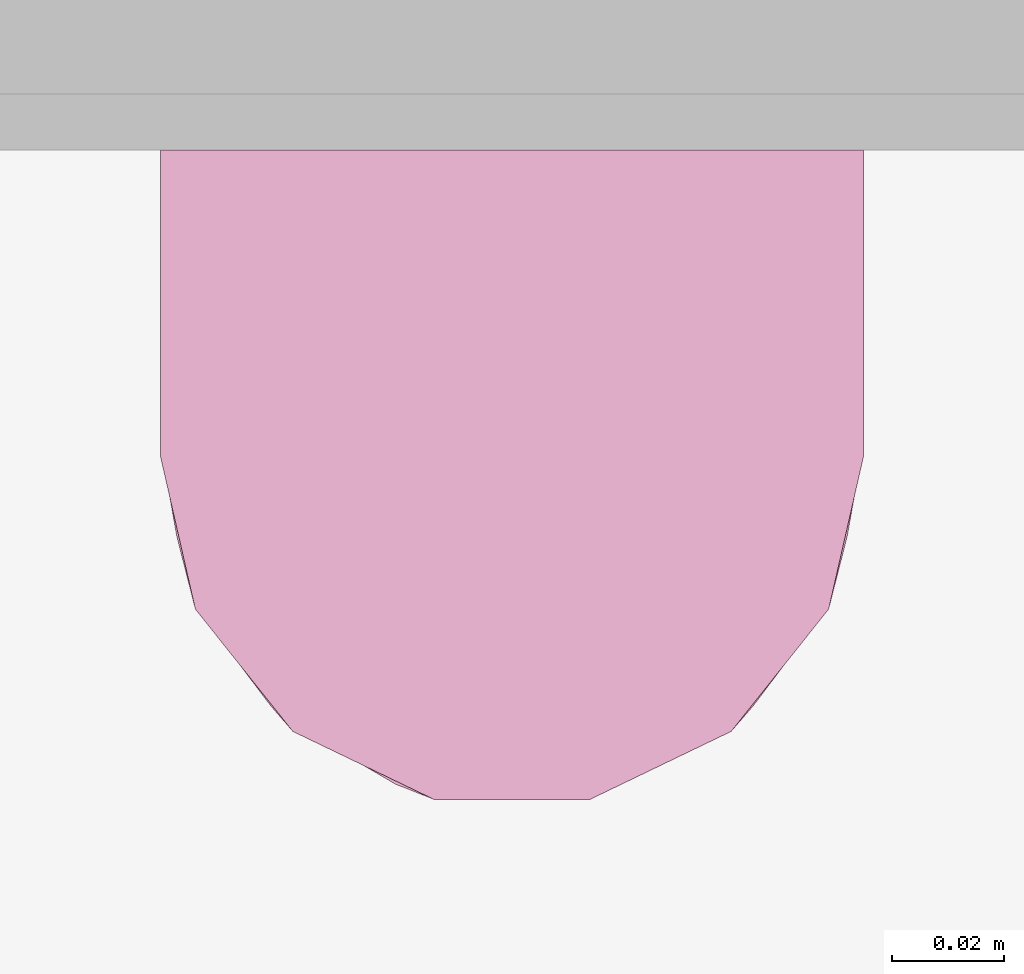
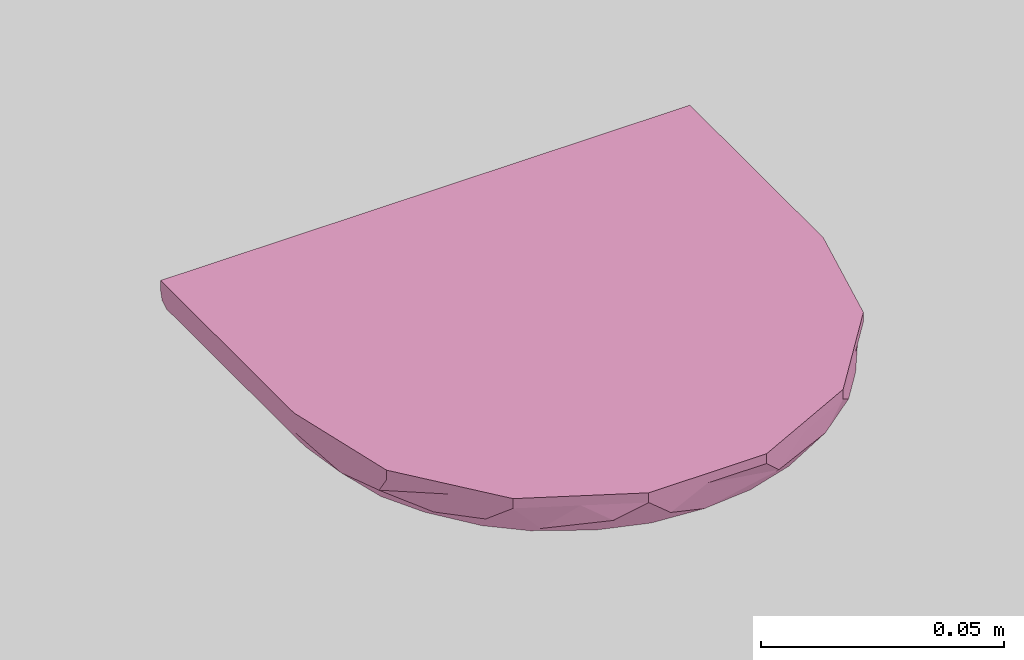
# One storey, part 45 of 47: 1 furniture element.
"""IFC4 building model written with IfcOpenShell, lengths in metres."""

from ifc_helpers import new_model, entity, si_unit, converted_unit, derived_unit, direction, frame, origin, place, context, subcontext, project, spatial, polygons, source, transform, mapped, material, type_object, type_shapes, element, save


model = new_model("IFC4")

# Units and contexts
model_context = context("Model", 3, precision=1e-05, world=origin(), true_north=direction((6.123031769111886e-17, 1.0)))
body_context = subcontext(model_context, "Body", "Model", "MODEL_VIEW")
ifc_project = project(units=[si_unit("LENGTHUNIT", "METRE"), si_unit("AREAUNIT", "SQUARE_METRE"), si_unit("VOLUMEUNIT", "CUBIC_METRE"), converted_unit("PLANEANGLEUNIT", "DEGREE", entity("IfcRatioMeasure", 0.017453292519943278), si_unit("PLANEANGLEUNIT", "RADIAN"), dimensions=[0, 0, 0, 0, 0, 0, 0]), si_unit("MASSUNIT", "GRAM", prefix="KILO"), derived_unit("MASSDENSITYUNIT", [(si_unit("MASSUNIT", "GRAM", prefix="KILO"), 1), (si_unit("LENGTHUNIT", "METRE"), -3)]), derived_unit("IONCONCENTRATIONUNIT", [(si_unit("MASSUNIT", "GRAM", prefix="KILO"), 1), (si_unit("LENGTHUNIT", "METRE"), -3)]), derived_unit("MOMENTOFINERTIAUNIT", [(si_unit("LENGTHUNIT", "METRE"), 4)]), si_unit("TIMEUNIT", "SECOND"), si_unit("FREQUENCYUNIT", "HERTZ"), si_unit("THERMODYNAMICTEMPERATUREUNIT", "DEGREE_CELSIUS"), derived_unit("THERMALTRANSMITTANCEUNIT", [(si_unit("MASSUNIT", "GRAM", prefix="KILO"), 1), (si_unit("THERMODYNAMICTEMPERATUREUNIT", "KELVIN"), -1), (si_unit("TIMEUNIT", "SECOND"), -3)]), derived_unit("THERMALCONDUCTANCEUNIT", [(si_unit("MASSUNIT", "GRAM", prefix="KILO"), 1), (si_unit("THERMODYNAMICTEMPERATUREUNIT", "KELVIN"), -1), (si_unit("TIMEUNIT", "SECOND"), -3), (si_unit("LENGTHUNIT", "METRE"), 1)]), derived_unit("VOLUMETRICFLOWRATEUNIT", [(si_unit("LENGTHUNIT", "METRE"), 3), (si_unit("TIMEUNIT", "SECOND"), -1)]), derived_unit("MASSFLOWRATEUNIT", [(si_unit("MASSUNIT", "GRAM", prefix="KILO"), 1), (si_unit("TIMEUNIT", "SECOND"), -1)]), derived_unit("ROTATIONALFREQUENCYUNIT", [(si_unit("TIMEUNIT", "SECOND"), -1)]), si_unit("ELECTRICCURRENTUNIT", "AMPERE"), si_unit("ELECTRICVOLTAGEUNIT", "VOLT"), si_unit("POWERUNIT", "WATT"), si_unit("FORCEUNIT", "NEWTON", prefix="KILO"), si_unit("ILLUMINANCEUNIT", "LUX"), si_unit("LUMINOUSFLUXUNIT", "LUMEN"), si_unit("LUMINOUSINTENSITYUNIT", "CANDELA"), derived_unit("USERDEFINED", [(si_unit("MASSUNIT", "GRAM", prefix="KILO"), -1), (si_unit("LENGTHUNIT", "METRE"), -2), (si_unit("TIMEUNIT", "SECOND"), 3), (si_unit("LUMINOUSFLUXUNIT", "LUMEN"), 1)]), derived_unit("USERDEFINED", [(si_unit("MASSUNIT", "GRAM", prefix="KILO"), 1), (si_unit("TIMEUNIT", "SECOND"), -3), (si_unit("LENGTHUNIT", "METRE"), 3), (si_unit("ELECTRICCURRENTUNIT", "AMPERE"), -2)]), derived_unit("SOUNDPOWERUNIT", [(si_unit("MASSUNIT", "GRAM", prefix="KILO"), 1), (si_unit("TIMEUNIT", "SECOND"), -3), (si_unit("LENGTHUNIT", "METRE"), 2)]), derived_unit("SOUNDPRESSUREUNIT", [(si_unit("MASSUNIT", "GRAM", prefix="KILO"), 1), (si_unit("LENGTHUNIT", "METRE"), -1), (si_unit("TIMEUNIT", "SECOND"), -2)]), derived_unit("LINEARVELOCITYUNIT", [(si_unit("LENGTHUNIT", "METRE"), 1), (si_unit("TIMEUNIT", "SECOND"), -1)]), si_unit("PRESSUREUNIT", "PASCAL"), derived_unit("USERDEFINED", [(si_unit("MASSUNIT", "GRAM", prefix="KILO"), 1), (si_unit("LENGTHUNIT", "METRE"), -2), (si_unit("TIMEUNIT", "SECOND"), -2)]), derived_unit("LINEARFORCEUNIT", [(si_unit("MASSUNIT", "GRAM", prefix="KILO"), 1), (si_unit("TIMEUNIT", "SECOND"), -2)]), derived_unit("PLANARFORCEUNIT", [(si_unit("MASSUNIT", "GRAM", prefix="KILO"), 1), (si_unit("LENGTHUNIT", "METRE"), -1), (si_unit("TIMEUNIT", "SECOND"), -2)]), derived_unit("SPECIFICHEATCAPACITYUNIT", [(si_unit("THERMODYNAMICTEMPERATUREUNIT", "KELVIN"), -1), (si_unit("LENGTHUNIT", "METRE"), 2), (si_unit("TIMEUNIT", "SECOND"), -2)]), derived_unit("HEATINGVALUEUNIT", [(si_unit("LENGTHUNIT", "METRE"), 2), (si_unit("TIMEUNIT", "SECOND"), -2)]), derived_unit("VAPORPERMEABILITYUNIT", [(si_unit("LENGTHUNIT", "METRE"), -1), (si_unit("TIMEUNIT", "SECOND"), 1)]), derived_unit("DYNAMICVISCOSITYUNIT", [(si_unit("MASSUNIT", "GRAM", prefix="KILO"), 1), (si_unit("TIMEUNIT", "SECOND"), -1), (si_unit("LENGTHUNIT", "METRE"), -1)]), derived_unit("THERMALEXPANSIONCOEFFICIENTUNIT", [(si_unit("THERMODYNAMICTEMPERATUREUNIT", "KELVIN"), -1)]), derived_unit("MODULUSOFELASTICITYUNIT", [(si_unit("MASSUNIT", "GRAM", prefix="KILO"), 1), (si_unit("LENGTHUNIT", "METRE"), -1), (si_unit("TIMEUNIT", "SECOND"), -2)]), derived_unit("ISOTHERMALMOISTURECAPACITYUNIT", [(si_unit("LENGTHUNIT", "METRE"), 3), (si_unit("MASSUNIT", "GRAM", prefix="KILO"), -1)]), derived_unit("MOISTUREDIFFUSIVITYUNIT", [(si_unit("TIMEUNIT", "SECOND"), -1), (si_unit("LENGTHUNIT", "METRE"), 2)])], contexts=[model_context])

# Site, building, storey, space
site_placement = place(None, origin())
site = spatial("IfcSite", under=ifc_project, at=site_placement, Name="Default", CompositionType="ELEMENT")
building_placement = place(site_placement, origin())
building = spatial("IfcBuilding", under=site, at=building_placement, CompositionType="ELEMENT")
storey_placement = place(building_placement, frame((0.0, 0.0, 11.750000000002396)))
storey = spatial("IfcBuildingStorey", under=building, at=storey_placement, Name="Nivel 6", CompositionType="ELEMENT", Elevation=11.750000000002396)
space_placement = place(storey_placement, origin())
space = spatial("IfcSpace", under=storey, at=space_placement, Name="326", CompositionType="ELEMENT", PredefinedType="SPACE")

# Furniture
ifc_material = material(Name="CERAMICA APARATOS", Category="Materials")
furniture_type = type_object("IfcFurnitureType", Name="E2050 - Jabonera:E2050 - Jabonera - Ceramica", AssemblyPlace="NOTDEFINED", PredefinedType="NOTDEFINED", material=ifc_material)
shared_shape = source(origin(), body_context, "Body", "Tessellation", [
    polygons([(-0.05252423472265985, -0.012920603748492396, -3.98642579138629e-15), (-0.05523556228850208, -0.012563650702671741, -3.97690233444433e-15), (-0.05776211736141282, -0.011517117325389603, -3.958155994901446e-15), (-0.059931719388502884, -0.00985232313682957, -3.931464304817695e-15), (-0.06159651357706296, -0.007682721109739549, -3.898646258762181e-15), (-0.06264304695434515, -0.005156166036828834, -3.8619383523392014e-15), (-0.0630000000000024, -0.002444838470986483, -3.823842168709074e-15), (-0.0630000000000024, -8.82367512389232e-15, -3.79003495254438e-15), (0.06300000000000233, -8.823675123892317e-15, -4.003224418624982e-15), (0.06300000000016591, -0.002444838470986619, -4.037031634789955e-15), (0.06264304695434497, -0.0051561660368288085, -4.073919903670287e-15), (0.06159651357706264, -0.007682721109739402, -4.107086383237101e-15), (0.059931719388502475, -0.009852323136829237, -4.134270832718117e-15), (0.05776211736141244, -0.011517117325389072, -4.153620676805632e-15), (0.055235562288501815, -0.012563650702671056, -4.163817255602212e-15), (0.05252423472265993, -0.012920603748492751, -4.164165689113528e-15), (0.04300000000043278, -0.01292060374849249, -4.1480508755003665e-15), (0.042779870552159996, -0.01459265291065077, -4.170799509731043e-15), (0.04213448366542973, -0.01615075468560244, -4.191252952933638e-15), (0.041107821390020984, -0.01748872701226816, -4.20801733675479e-15), (0.03976984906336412, -0.018515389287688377, -4.219950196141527e-15), (0.03821174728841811, -0.019160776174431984, -4.226238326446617e-15), (0.03653969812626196, -0.019380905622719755, -4.226453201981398e-15), (-0.03653969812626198, -0.019380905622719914, -4.1028043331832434e-15), (-0.03821174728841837, -0.019160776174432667, -4.096931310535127e-15), (-0.03976984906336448, -0.018515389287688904, -4.08537062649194e-15), (-0.04110782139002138, -0.017488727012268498, -4.068910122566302e-15), (-0.042134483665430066, -0.01615075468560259, -4.0486715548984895e-15), (-0.04277987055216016, -0.014592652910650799, -4.026034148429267e-15), (-0.04300000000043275, -0.012920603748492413, -4.002540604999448e-15), (-0.05252423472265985, -0.012920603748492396, 0.05500000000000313), (-0.05523556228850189, -0.012563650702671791, 0.05500000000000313), (-0.05776211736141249, -0.011517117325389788, 0.05500000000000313), (-0.0599317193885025, -0.009852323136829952, 0.05500000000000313), (-0.06159651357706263, -0.007682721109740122, 0.05500000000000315), (-0.06264304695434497, -0.005156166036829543, 0.05500000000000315), (-0.06300000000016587, -0.0024448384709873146, 0.055000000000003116), (-0.0630000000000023, -9.584537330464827e-15, 0.05500000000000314), (-0.05676103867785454, -9.98278301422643e-15, 0.08233467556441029), (-0.03927985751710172, -1.0341963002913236e-14, 0.10425538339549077), (-0.014018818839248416, -1.0591040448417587e-14, 0.11642045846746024), (0.014018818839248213, -1.0680682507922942e-14, 0.11642045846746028), (0.03927985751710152, -1.0593134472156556e-14, 0.1042553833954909), (0.05676103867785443, -1.0345736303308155e-14, 0.08233467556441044), (0.06300000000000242, -9.987488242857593e-15, 0.055000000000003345), (-0.036539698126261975, -0.019380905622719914, 0.055000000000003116), (-0.03821174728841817, -0.019160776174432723, 0.055000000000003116), (-0.03976984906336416, -0.018515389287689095, 0.055000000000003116), (-0.04110782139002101, -0.017488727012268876, 0.055000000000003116), (-0.04213448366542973, -0.016150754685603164, 0.055000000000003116), (-0.042779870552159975, -0.014592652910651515, 0.055000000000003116), (-0.04300000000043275, -0.012920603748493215, 0.05500000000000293), (-0.03723909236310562, -0.012920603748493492, 0.07650000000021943), (-0.021500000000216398, -0.012920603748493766, 0.09223909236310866), (-7.613909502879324e-17, -0.012920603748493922, 0.09800000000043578), (0.021500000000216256, -0.012920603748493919, 0.09223909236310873), (0.03723909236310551, -0.012920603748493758, 0.07650000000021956), (0.04300000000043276, -0.012920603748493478, 0.05500000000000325), (0.05252423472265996, -0.012920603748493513, 0.05500000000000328), (0.04732270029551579, -0.012920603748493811, 0.0777894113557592), (0.03274832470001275, -0.012920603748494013, 0.09606510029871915), (0.011687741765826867, -0.012920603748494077, 0.106207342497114), (-0.011687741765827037, -0.012920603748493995, 0.10620734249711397), (-0.0327483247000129, -0.012920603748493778, 0.09606510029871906), (-0.0473227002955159, -0.012920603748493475, 0.07778941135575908), (0.05523556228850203, -0.012563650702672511, 0.05500000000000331), (0.05776211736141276, -0.011517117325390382, 0.05500000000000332), (0.059931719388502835, -0.009852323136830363, 0.055000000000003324), (0.06159651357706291, -0.007682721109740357, 0.05500000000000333), (0.06264304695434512, -0.005156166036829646, 0.055000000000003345), (0.06300000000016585, -0.002444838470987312, 0.055000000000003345), (0.05676103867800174, -0.002444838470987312, 0.08233467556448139), (0.039279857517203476, -0.002444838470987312, 0.10425538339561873), (0.014018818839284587, -0.002444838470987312, 0.11642045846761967), (-0.01401881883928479, -0.002444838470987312, 0.11642045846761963), (-0.03927985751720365, -0.002444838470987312, 0.10425538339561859), (-0.056761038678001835, -0.002444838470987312, 0.08233467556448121), (-0.05541537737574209, -0.00994065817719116, 0.0775884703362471), (0.05541537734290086, -0.009940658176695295, 0.07758847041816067), (-0.06068843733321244, -0.002444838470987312, 0.06512761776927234), (0.06068843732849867, -0.002444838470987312, 0.06512761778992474), (-0.06009482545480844, -0.0073735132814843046, 0.06927989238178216), (0.06009482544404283, -0.007373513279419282, 0.06927989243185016), (1.1920939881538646e-10, -0.009647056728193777, 0.11513144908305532), (-0.02296028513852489, -0.010016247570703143, 0.11017763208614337), (0.022960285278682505, -0.010016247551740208, 0.11017763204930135), (-0.0423486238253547, -0.010229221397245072, 0.09684448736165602), (0.04234862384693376, -0.010229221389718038, 0.09684448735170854), (-0.049923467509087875, -0.012920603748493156, 0.06639470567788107), (0.04992346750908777, -0.012920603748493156, 0.06639470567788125), (-0.05703578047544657, -0.0065083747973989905, 0.07976375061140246), (-0.048020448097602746, -0.002444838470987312, 0.0932950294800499), (-0.05024267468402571, -0.007894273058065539, 0.09041697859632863), (-0.04930529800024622, -0.01152280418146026, 0.08507175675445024), (-0.04320181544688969, -0.006488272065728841, 0.09973226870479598), (-0.026649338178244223, -0.002444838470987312, 0.11033792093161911), (-0.033651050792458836, -0.008354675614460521, 0.10608663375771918), (-0.033585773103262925, -0.011709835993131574, 0.10156463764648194), (-0.04003551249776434, -0.012920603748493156, 0.08692725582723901), (-0.020861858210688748, -0.0061859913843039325, 0.11371301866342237), (-0.008798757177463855, -0.006760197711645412, 0.11644307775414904), (-1.0151879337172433e-16, -0.002444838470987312, 0.11642045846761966), (-0.011582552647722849, -0.010395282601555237, 0.1132044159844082), (-8.671396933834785e-17, -0.012920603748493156, 0.10620734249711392), (0.005858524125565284, -0.012067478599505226, 0.1113613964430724), (0.011714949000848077, -0.009815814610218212, 0.11381264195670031), (0.01809843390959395, -0.006648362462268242, 0.11442472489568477), (0.02664933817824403, -0.002444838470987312, 0.11033792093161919), (0.033532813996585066, -0.007293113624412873, 0.10692394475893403), (0.03311804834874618, -0.010897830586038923, 0.10347984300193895), (0.05703578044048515, -0.006508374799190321, 0.07976375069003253), (0.0480204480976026, -0.002444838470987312, 0.09329502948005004), (0.050242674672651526, -0.007894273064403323, 0.09041697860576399), (0.04930529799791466, -0.01152280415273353, 0.08507175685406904), (0.043201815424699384, -0.006488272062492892, 0.09973226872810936), (-0.022218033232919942, -0.012920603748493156, 0.10113622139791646), (0.02221803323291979, -0.012920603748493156, 0.10113622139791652), (0.04003551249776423, -0.012920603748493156, 0.08692725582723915), (-0.05917785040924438, -0.002444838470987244, 0.07174593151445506), (-0.059880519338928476, -9.58464048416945e-15, 0.06866733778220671), (-0.04802044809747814, -9.584640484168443e-15, 0.09329502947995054), (-0.02664933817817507, -9.584640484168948e-15, 0.11033792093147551), (-1.0151879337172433e-16, -9.584640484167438e-15, 0.11642045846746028), (0.026649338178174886, -9.584640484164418e-15, 0.1103379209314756), (0.048020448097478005, -9.584640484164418e-15, 0.09329502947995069), (0.05917785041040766, -9.584640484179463e-15, 0.07174593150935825), (0.05988051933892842, -0.002444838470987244, 0.06866733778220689), (-0.03529463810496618, -0.019380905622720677, 0.0644571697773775), (-0.031644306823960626, -0.019380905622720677, 0.07326984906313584), (-0.025837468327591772, -0.019380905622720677, 0.08083746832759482), (-0.018269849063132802, -0.019380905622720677, 0.08664430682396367), (-0.009457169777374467, -0.019380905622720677, 0.09029463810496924), (-6.388409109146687e-17, -0.019380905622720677, 0.09153969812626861), (0.00945716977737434, -0.019380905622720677, 0.09029463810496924), (0.018269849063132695, -0.019380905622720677, 0.08664430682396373), (0.025837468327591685, -0.019380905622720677, 0.08083746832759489), (0.03164430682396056, -0.019380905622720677, 0.07326984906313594), (0.035294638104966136, -0.019380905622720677, 0.06445716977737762), (0.03653969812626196, -0.019380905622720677, 0.05500000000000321), (0.03821174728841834, -0.01916077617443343, 0.05500000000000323), (0.03976984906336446, -0.01851538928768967, 0.055000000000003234), (0.041107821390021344, -0.01748872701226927, 0.05500000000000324), (0.04213448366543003, -0.01615075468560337, 0.05500000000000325), (0.04277987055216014, -0.014592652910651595, 0.05500000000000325), (-0.039354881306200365, -0.01681536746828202, 0.06876876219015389), (0.039354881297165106, -0.016815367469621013, 0.0687687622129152), (-0.03969397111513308, -0.012920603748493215, 0.06733826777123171), (0.039693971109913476, -0.012920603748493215, 0.06733826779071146), (-0.029990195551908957, -0.017045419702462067, 0.0837021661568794), (0.02999019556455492, -0.017045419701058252, 0.08370216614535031), (-0.014068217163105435, -0.017293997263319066, 0.09382432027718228), (0.0140682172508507, -0.01729399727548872, 0.0938243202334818), (-0.0414288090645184, -0.016256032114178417, 0.06233060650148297), (0.04142880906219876, -0.016256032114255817, 0.06233060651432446), (-0.03509474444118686, -0.018469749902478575, 0.07387308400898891), (0.03509474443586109, -0.018469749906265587, 0.07387308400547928), (-0.022452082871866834, -0.018468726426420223, 0.08792225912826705), (-0.004758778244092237, -0.018468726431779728, 0.09456419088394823), (0.022452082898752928, -0.018468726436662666, 0.08792225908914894), (-0.010750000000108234, -0.012920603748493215, 0.09511954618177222), (-0.01649269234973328, -0.014958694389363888, 0.09435387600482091), (-0.02403627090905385, -0.015817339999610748, 0.08982450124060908), (-0.029369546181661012, -0.012920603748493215, 0.08436954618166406), (-0.005391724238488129, -0.015874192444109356, 0.09694013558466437), (0.003951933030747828, -0.017201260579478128, 0.09618908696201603), (-0.029447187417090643, -0.018870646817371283, 0.08065629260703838), (0.029447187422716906, -0.018870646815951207, 0.08065629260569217), (0.004753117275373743, -0.01891047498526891, 0.09366878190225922), (0.01247662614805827, -0.01887114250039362, 0.09200843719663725), (-0.013974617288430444, -0.018938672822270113, 0.09129118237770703), (0.021812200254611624, -0.016118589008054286, 0.09107073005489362), (-0.035603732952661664, -0.016145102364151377, 0.07753804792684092), (0.03560373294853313, -0.01614510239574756, 0.07753804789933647), (-0.0379779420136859, -0.01877351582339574, 0.06500795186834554), (0.03797794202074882, -0.018773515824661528, 0.06500795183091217), (0.029369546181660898, -0.012920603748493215, 0.08436954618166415), (0.010750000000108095, -0.012920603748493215, 0.09511954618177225)], [[[8, 9, 10, 11, 12, 13, 14, 15, 16, 17, 18, 19, 20, 21, 22, 23, 24, 25, 26, 27, 28, 29, 30, 1, 2, 3, 4, 5, 6, 7]], [[1, 31, 32, 2]], [[24, 46, 47, 25]], [[2, 32, 33, 3]], [[25, 47, 48, 26]], [[3, 33, 34, 4]], [[26, 48, 49, 27]], [[5, 35, 36, 6]], [[50, 51, 29, 28]], [[6, 36, 37, 7]], [[51, 52, 30, 29]], [[4, 34, 35, 5]], [[27, 49, 50, 28]], [[8, 7, 37, 38]], [[8, 38, 120, 39, 121, 40, 122, 41, 123, 42, 124, 43, 125, 44, 126, 45, 9]], [[17, 16, 59, 90, 60, 118, 61, 117, 62, 104, 63, 116, 64, 99, 65, 89, 31, 1, 30, 52, 147, 53, 163, 54, 160, 55, 177, 56, 176, 57, 148, 58]], [[133, 132, 131, 130, 129, 128, 46, 24, 23, 139, 138, 137, 136, 135, 134]], [[78, 33, 32]], [[90, 66, 79]], [[94, 87, 93]], [[65, 94, 89]], [[80, 37, 36]], [[36, 82, 80]], [[94, 99, 87]], [[70, 71, 81]], [[109, 107, 86]], [[116, 98, 64]], [[82, 36, 35]], [[93, 95, 92]], [[78, 94, 93]], [[34, 33, 82]], [[91, 92, 77]], [[97, 95, 87]], [[34, 82, 35]], [[33, 78, 82]], [[91, 82, 78]], [[82, 77, 119, 80]], [[77, 82, 91]], [[113, 115, 88]], [[63, 104, 103]], [[95, 93, 87]], [[105, 86, 106]], [[93, 91, 78]], [[98, 85, 97]], [[61, 118, 110]], [[66, 67, 79]], [[110, 88, 109]], [[76, 95, 97]], [[114, 90, 79]], [[105, 106, 84]], [[83, 67, 68]], [[32, 89, 78]], [[74, 107, 108]], [[111, 113, 79]], [[90, 59, 66]], [[79, 83, 111]], [[101, 75, 100]], [[83, 79, 67]], [[83, 81, 127, 72]], [[84, 102, 101]], [[81, 83, 70]], [[69, 83, 68]], [[32, 31, 89]], [[101, 103, 84]], [[105, 84, 103]], [[114, 79, 113]], [[70, 83, 69]], [[92, 91, 93]], [[89, 94, 78]], [[87, 99, 98]], [[100, 75, 96]], [[92, 95, 76]], [[87, 98, 97]], [[100, 97, 85]], [[76, 97, 96]], [[65, 99, 94]], [[103, 116, 63]], [[97, 100, 96]], [[64, 98, 99]], [[103, 101, 100]], [[103, 100, 85]], [[103, 85, 116]], [[106, 107, 84]], [[102, 75, 101]], [[104, 105, 103]], [[61, 110, 117]], [[105, 104, 62]], [[86, 105, 62]], [[86, 107, 106]], [[107, 102, 84]], [[108, 107, 109]], [[102, 107, 74]], [[108, 109, 73]], [[110, 109, 86]], [[111, 72, 112]], [[110, 86, 117]], [[60, 114, 118]], [[83, 72, 111]], [[88, 114, 113]], [[115, 109, 88]], [[111, 112, 113]], [[115, 112, 73]], [[114, 88, 118]], [[90, 114, 60]], [[112, 115, 113]], [[109, 115, 73]], [[98, 116, 85]], [[86, 62, 117]], [[110, 118, 88]], [[77, 39, 120, 38, 37, 80, 119]], [[121, 39, 77, 92, 76, 40]], [[126, 44, 72, 127, 81, 71, 45]], [[96, 75, 41, 122, 40, 76]], [[123, 41, 75, 102, 74, 42]], [[73, 43, 124, 42, 74, 108]], [[43, 73, 112, 72, 44, 125]], [[46, 128, 174]], [[133, 134, 168]], [[146, 156, 175]], [[128, 155, 174]], [[130, 131, 157]], [[151, 161, 162]], [[131, 170, 157]], [[147, 52, 51]], [[155, 145, 174]], [[156, 137, 138]], [[166, 157, 149]], [[131, 132, 170]], [[147, 145, 53]], [[173, 176, 150]], [[51, 50, 153]], [[161, 54, 162]], [[153, 49, 48]], [[165, 55, 164]], [[166, 129, 130]], [[151, 162, 157]], [[173, 150, 156]], [[154, 146, 175]], [[144, 58, 148]], [[48, 174, 153]], [[167, 159, 136]], [[174, 48, 47]], [[151, 170, 158]], [[151, 158, 164]], [[152, 165, 169]], [[173, 156, 146]], [[172, 155, 149]], [[136, 159, 135]], [[136, 137, 167]], [[148, 146, 154]], [[156, 138, 175]], [[155, 172, 145]], [[144, 154, 143]], [[159, 152, 169]], [[166, 155, 129]], [[175, 139, 140]], [[154, 141, 142]], [[145, 147, 153]], [[49, 153, 50]], [[152, 159, 171]], [[154, 142, 143]], [[154, 175, 141]], [[162, 163, 149]], [[171, 56, 177]], [[146, 148, 57]], [[158, 132, 133]], [[54, 161, 160]], [[148, 154, 144]], [[160, 161, 164]], [[155, 128, 129]], [[51, 153, 147]], [[165, 168, 169]], [[167, 156, 150]], [[150, 176, 171]], [[164, 161, 151]], [[53, 172, 163]], [[157, 162, 149]], [[162, 54, 163]], [[165, 164, 158]], [[160, 164, 55]], [[158, 133, 168]], [[152, 177, 165]], [[157, 166, 130]], [[155, 166, 149]], [[156, 167, 137]], [[159, 167, 150]], [[168, 134, 169]], [[158, 168, 165]], [[134, 135, 169]], [[159, 169, 135]], [[158, 170, 132]], [[157, 170, 151]], [[150, 171, 159]], [[55, 165, 177]], [[163, 172, 149]], [[53, 145, 172]], [[146, 57, 173]], [[171, 177, 152]], [[174, 145, 153]], [[46, 174, 47]], [[139, 175, 138]], [[141, 175, 140]], [[176, 173, 57]], [[56, 171, 176]], [[59, 16, 15, 66]], [[139, 23, 22, 140]], [[66, 15, 14, 67]], [[140, 22, 21, 141]], [[67, 14, 13, 68]], [[141, 21, 20, 142]], [[69, 12, 11, 70]], [[19, 18, 144, 143]], [[70, 11, 10, 71]], [[18, 17, 58, 144]], [[68, 13, 12, 69]], [[142, 20, 19, 143]], [[45, 71, 10, 9]]], closed=True),
])
type_shapes(furniture_type, [shared_shape])
furniture_placement = place(space_placement, frame((3.197501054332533, -6.495000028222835, 1.249999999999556), z_axis=(0.0, -1.0, 0.0), x_axis=(1.0, 0.0, 0.0)))
element("IfcFurniture", 1, at=furniture_placement, inside=space, type_object=furniture_type, material=ifc_material, Name="E2050 - Jabonera:E2050 - Jabonera - Ceramica", ObjectType="E2050 - Jabonera:E2050 - Jabonera - Ceramica", PredefinedType="NOTDEFINED", context=body_context, shape_type="MappedRepresentation", body=[
    mapped(shared_shape, transform((0.0, 0.0, 0.0), scale=1.0)),
])

save(model, "model.ifc")
